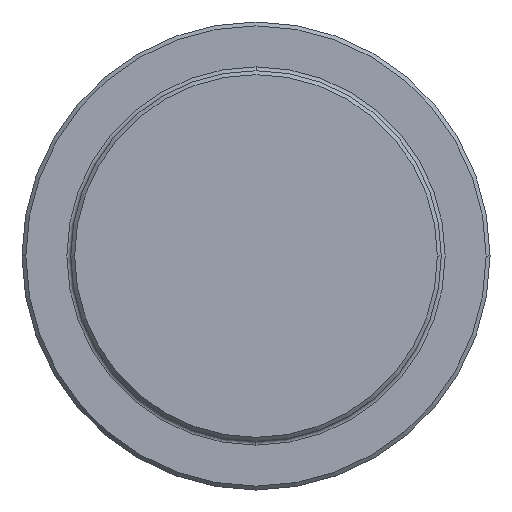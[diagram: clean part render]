
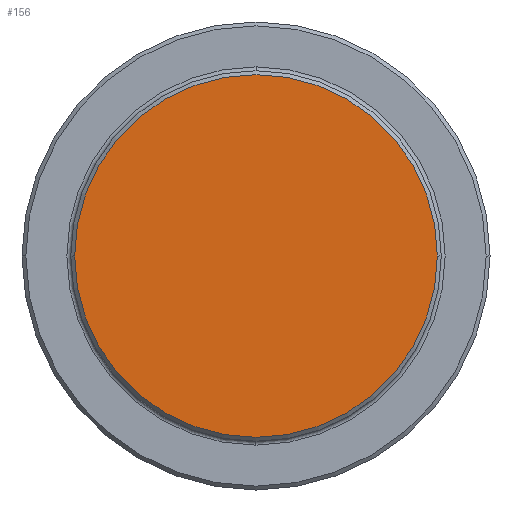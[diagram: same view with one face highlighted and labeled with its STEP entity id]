
A CAD part, left-side view. The second image highlights one B-rep face of the part: STEP entity #156.
In plain terms, the highlighted planar face has unit normal (-1, 0, 0).
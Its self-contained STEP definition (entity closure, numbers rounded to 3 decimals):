
#156=ADVANCED_FACE('',(#334),#335,.T.);
#334=FACE_OUTER_BOUND('',#540,.T.);
#335=PLANE('',#541);
#540=EDGE_LOOP('',(#917,#918));
#541=AXIS2_PLACEMENT_3D('',#919,#920,#921);
#917=ORIENTED_EDGE('',*,*,#1279,.F.);
#918=ORIENTED_EDGE('',*,*,#1198,.F.);
#919=CARTESIAN_POINT('',(0.,-4.75,0.0));
#920=DIRECTION('',(-1.0,0.0,0.0));
#921=DIRECTION('',(0.0,0.0,1.0));
#1198=EDGE_CURVE('',#1421,#1424,#1425,.T.);
#1279=EDGE_CURVE('',#1424,#1421,#1537,.T.);
#1421=VERTEX_POINT('',#1709);
#1424=VERTEX_POINT('',#1713);
#1425=CIRCLE('',#1714,9.3);
#1537=CIRCLE('',#1845,9.3);
#1709=CARTESIAN_POINT('',(0.,9.3,0.));
#1713=CARTESIAN_POINT('',(0.,-9.3,0.));
#1714=AXIS2_PLACEMENT_3D('',#2066,#2067,#2068);
#1845=AXIS2_PLACEMENT_3D('',#2202,#2203,#2204);
#2066=CARTESIAN_POINT('',(0.,0.0,0.0));
#2067=DIRECTION('',(1.0,0.0,0.0));
#2068=DIRECTION('',(0.0,1.0,0.0));
#2202=CARTESIAN_POINT('',(0.,0.0,0.0));
#2203=DIRECTION('',(1.0,0.0,0.0));
#2204=DIRECTION('',(0.0,1.0,0.0));
